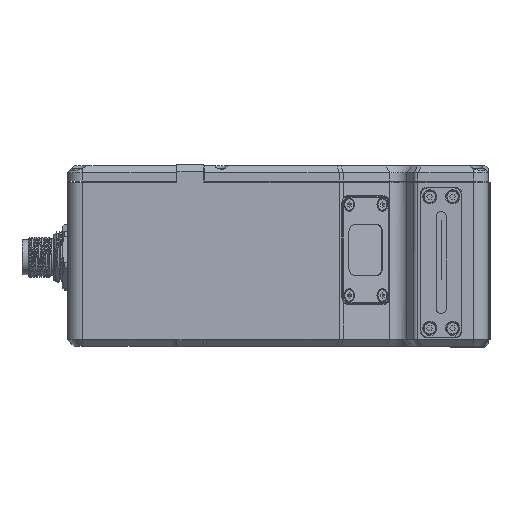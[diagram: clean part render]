
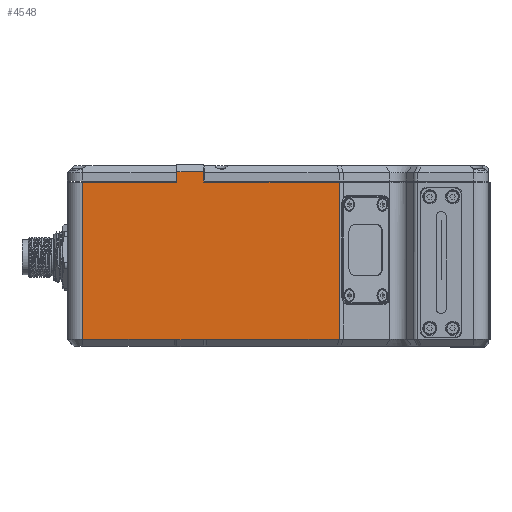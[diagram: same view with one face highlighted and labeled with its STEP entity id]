
A CAD part, top view. The second image highlights one B-rep face of the part: STEP entity #4548.
In plain terms, the highlighted planar face has unit normal (0, 0, 1).
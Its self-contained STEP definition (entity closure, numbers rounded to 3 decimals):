
#428=CARTESIAN_POINT('',(18.215,-22.1,40.75));
#437=DIRECTION('',(1.,0.,0.));
#438=VECTOR('',#437,39.476);
#439=CARTESIAN_POINT('',(-21.261,-22.1,40.75));
#440=LINE('',#439,#438);
#457=DIRECTION('',(1.,0.,0.));
#458=VECTOR('',#457,8.);
#459=CARTESIAN_POINT('',(-30.,-22.3,40.75));
#460=LINE('',#459,#458);
#584=DIRECTION('',(0.,-1.,0.));
#585=VECTOR('',#584,3.1);
#586=CARTESIAN_POINT('',(-30.,27.7,40.75));
#587=LINE('',#586,#585);
#593=DIRECTION('',(-1.,0.,0.));
#594=VECTOR('',#593,40.211);
#595=CARTESIAN_POINT('',(18.211,24.6,40.75));
#596=LINE('',#595,#594);
#602=DIRECTION('',(-1.,0.,0.));
#603=VECTOR('',#602,28.);
#604=CARTESIAN_POINT('',(-30.,24.6,40.75));
#605=LINE('',#604,#603);
#1169=CARTESIAN_POINT('',(-21.261,-22.1,40.75));
#1170=CARTESIAN_POINT('',(-21.393,-22.1,40.75));
#1171=CARTESIAN_POINT('',(-21.647,-22.136,40.75));
#1172=CARTESIAN_POINT('',(-21.885,-22.235,40.75));
#1173=CARTESIAN_POINT('',(-22.,-22.3,40.75));
#1175=CARTESIAN_POINT('',(-30.,-22.3,40.75));
#1176=CARTESIAN_POINT('',(-30.115,-22.235,40.75));
#1177=CARTESIAN_POINT('',(-30.353,-22.136,40.75));
#1178=CARTESIAN_POINT('',(-30.607,-22.1,40.75));
#1179=CARTESIAN_POINT('',(-30.739,-22.1,40.75));
#1181=DIRECTION('',(-1.,0.,0.));
#1182=VECTOR('',#1181,27.261);
#1183=CARTESIAN_POINT('',(-30.739,-22.1,40.75));
#1184=LINE('',#1183,#1182);
#1185=DIRECTION('',(0.,-1.,0.));
#1186=VECTOR('',#1185,3.1);
#1187=CARTESIAN_POINT('',(-22.,27.7,40.75));
#1188=LINE('',#1187,#1186);
#1189=CARTESIAN_POINT('',(18.211,24.6,40.75));
#1190=CARTESIAN_POINT('',(18.212,9.033,40.75));
#1191=CARTESIAN_POINT('',(18.214,-6.533,40.75));
#1192=CARTESIAN_POINT('',(18.215,-22.1,40.75));
#1219=DIRECTION('',(0.,-1.,0.));
#1220=VECTOR('',#1219,46.7);
#1221=CARTESIAN_POINT('',(-58.,24.6,40.75));
#1222=LINE('',#1221,#1220);
#2923=DIRECTION('',(-1.,0.,0.));
#2924=VECTOR('',#2923,8.);
#2925=CARTESIAN_POINT('',(-22.,27.7,40.75));
#2926=LINE('',#2925,#2924);
#3506=VERTEX_POINT('',#428);
#3508=CARTESIAN_POINT('',(-21.261,-22.1,40.75));
#3509=VERTEX_POINT('',#3508);
#3510=CARTESIAN_POINT('',(-22.,-22.3,40.75));
#3511=VERTEX_POINT('',#3510);
#3512=CARTESIAN_POINT('',(-30.,-22.3,40.75));
#3513=VERTEX_POINT('',#3512);
#3530=CARTESIAN_POINT('',(-30.,24.6,40.75));
#3532=VERTEX_POINT('',#3530);
#3534=CARTESIAN_POINT('',(-30.,27.7,40.75));
#3535=VERTEX_POINT('',#3534);
#3537=CARTESIAN_POINT('',(18.211,24.6,40.75));
#3539=VERTEX_POINT('',#3537);
#3540=CARTESIAN_POINT('',(-22.,24.6,40.75));
#3541=VERTEX_POINT('',#3540);
#3544=CARTESIAN_POINT('',(-58.,24.6,40.75));
#3545=VERTEX_POINT('',#3544);
#3622=VERTEX_POINT('',#1179);
#3623=CARTESIAN_POINT('',(-58.,-22.1,
40.75));
#3624=VERTEX_POINT('',#3623);
#3625=CARTESIAN_POINT('',(-22.,27.7,40.75));
#3626=VERTEX_POINT('',#3625);
#4524=CARTESIAN_POINT('',(-62.5,-24.1,40.75));
#4525=DIRECTION('',(0.,0.,1.));
#4526=DIRECTION('',(1.,0.,0.));
#4527=AXIS2_PLACEMENT_3D('',#4524,#4525,#4526);
#4528=PLANE('',#4527);
#4529=ORIENTED_EDGE('',*,*,#4236,.F.);
#4530=ORIENTED_EDGE('',*,*,#4250,.T.);
#4531=ORIENTED_EDGE('',*,*,#4269,.F.);
#4533=ORIENTED_EDGE('',*,*,#4532,.T.);
#4535=ORIENTED_EDGE('',*,*,#4534,.T.);
#4537=ORIENTED_EDGE('',*,*,#4536,.F.);
#4538=ORIENTED_EDGE('',*,*,#4376,.F.);
#4539=ORIENTED_EDGE('',*,*,#4357,.F.);
#4541=ORIENTED_EDGE('',*,*,#4540,.F.);
#4543=ORIENTED_EDGE('',*,*,#4542,.T.);
#4544=ORIENTED_EDGE('',*,*,#4369,.F.);
#4545=ORIENTED_EDGE('',*,*,#4508,.T.);
#4546=EDGE_LOOP('',(#4529,#4530,#4531,#4533,#4535,#4537,#4538,#4539,#4541,#4543,
#4544,#4545));
#4547=FACE_OUTER_BOUND('',#4546,.F.);
#4548=ADVANCED_FACE('',(#4547),#4528,.T.);
#1174=B_SPLINE_CURVE_WITH_KNOTS('',3,(#1169,#1170,#1171,#1172,#1173),
.UNSPECIFIED.,.F.,.F.,(4,1,4),(0.,0.5,1.),.UNSPECIFIED.);
#1180=B_SPLINE_CURVE_WITH_KNOTS('',3,(#1175,#1176,#1177,#1178,#1179),
.UNSPECIFIED.,.F.,.F.,(4,1,4),(0.,0.5,1.),.UNSPECIFIED.);
#1193=B_SPLINE_CURVE_WITH_KNOTS('',3,(#1189,#1190,#1191,#1192),.UNSPECIFIED.,
.F.,.F.,(4,4),(0.,1.),.UNSPECIFIED.);
#4236=EDGE_CURVE('',#3509,#3506,#440,.T.);
#4250=EDGE_CURVE('',#3509,#3511,#1174,.T.);
#4269=EDGE_CURVE('',#3513,#3511,#460,.T.);
#4357=EDGE_CURVE('',#3535,#3532,#587,.T.);
#4369=EDGE_CURVE('',#3539,#3541,#596,.T.);
#4376=EDGE_CURVE('',#3532,#3545,#605,.T.);
#4508=EDGE_CURVE('',#3539,#3506,#1193,.T.);
#4532=EDGE_CURVE('',#3513,#3622,#1180,.T.);
#4534=EDGE_CURVE('',#3622,#3624,#1184,.T.);
#4536=EDGE_CURVE('',#3545,#3624,#1222,.T.);
#4540=EDGE_CURVE('',#3626,#3535,#2926,.T.);
#4542=EDGE_CURVE('',#3626,#3541,#1188,.T.);
